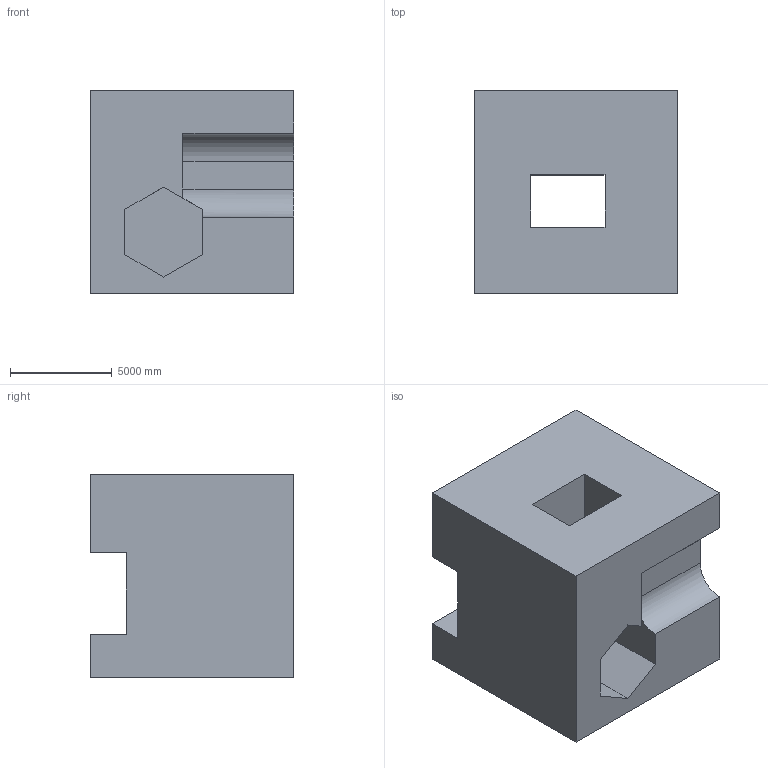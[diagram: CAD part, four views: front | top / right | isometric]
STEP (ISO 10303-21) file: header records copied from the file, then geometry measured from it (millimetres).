
FILE_DESCRIPTION (( 'STEP AP203' ), '1' );
FILE_NAME ('1306.STEP', '2022-08-18T13:40:16', ( 'user' ), ( '' ), 'SwSTEP 2.0', 'SolidWorks 2021', '' );
FILE_SCHEMA (( 'CONFIG_CONTROL_DESIGN' ));
Length unit declared in the file: centimetre
Products named in the file (1): 1306
Bounding box: 10000 x 10000 x 10000 mm (x, y, z)
Volume: 733975337581.4 mm3; surface area: 785866709.5 mm2
Topology: 1 solids, 1 shells, 29 faces, 87 edges, 58 vertices
Faces by surface type: plane 27, cylinder 2
Entity records: 1051 total; most frequent: CARTESIAN_POINT 178, ORIENTED_EDGE 174, DIRECTION 151, EDGE_CURVE 87, LINE 81, VECTOR 81, VERTEX_POINT 58, AXIS2_PLACEMENT_3D 35
